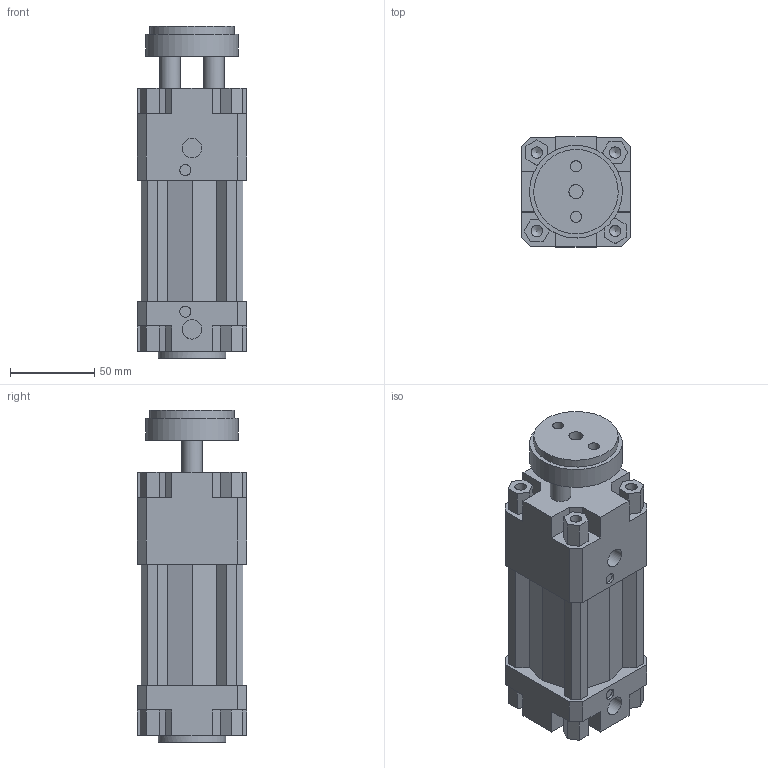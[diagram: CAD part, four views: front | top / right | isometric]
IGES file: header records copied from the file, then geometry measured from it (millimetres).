
Global section: file name: 134#_050_0025_01; native system: Autodesk Inventor 2014; preprocessor: unknown; author: A. Manieri; date: 20161006.164316; units: millimetre
Bounding box: 65 x 65 x 197 mm (x, y, z)
Volume: 536396.2 mm3; surface area: 106008.4 mm2
Topology: 2 solids, 2 shells, 180 faces, 492 edges, 336 vertices
Faces by surface type: bspline 180
